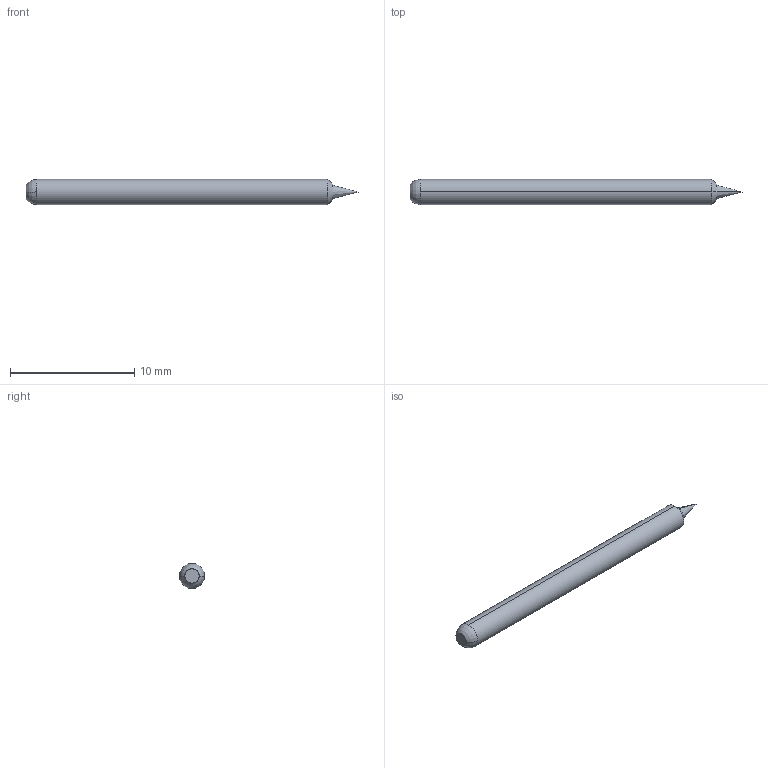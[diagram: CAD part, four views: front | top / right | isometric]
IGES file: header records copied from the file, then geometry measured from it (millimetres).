
Start section: SolidWorks IGES file using analytic representation for surfaces
Global section: file name: C:\Documents and Settings\mrumschlag\Desktop\changes\new\test\EPA-3B Full.IGS; native system: SolidWorks 2008; preprocessor: SolidWorks 2008; author: mrumschlag; date: 110414.162809; units: inch
Bounding box: 26.67 x 2.03 x 2.03 mm (x, y, z)
Surface area: 164.9 mm2 (no closed solid volume)
Topology: 0 solids, 0 shells, 11 faces, 60 edges, 58 vertices
Faces by surface type: revolution 10, bspline 1
